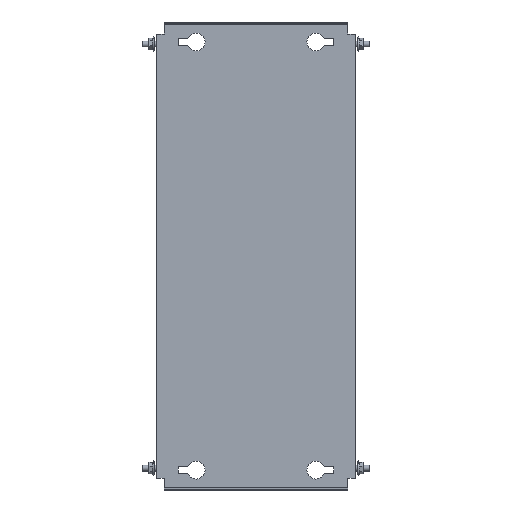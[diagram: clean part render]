
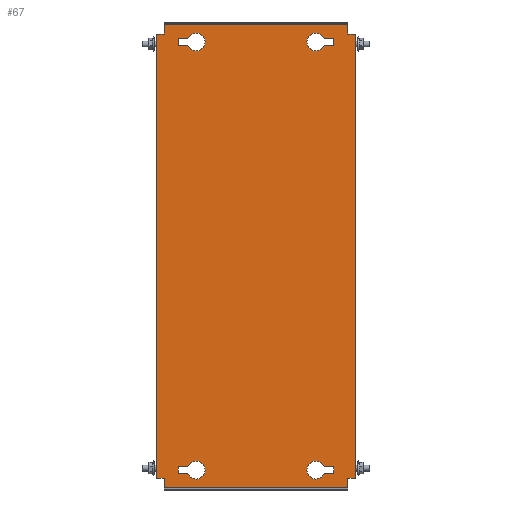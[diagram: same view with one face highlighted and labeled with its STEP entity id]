
A CAD part, top view. The second image highlights one B-rep face of the part: STEP entity #67.
In plain terms, the highlighted planar face has unit normal (0, 0, 1).
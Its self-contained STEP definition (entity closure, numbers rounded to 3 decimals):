
#67 = ADVANCED_FACE('',(#68,#103,#138,#300,#335),#370,.T.);
#68 = FACE_BOUND('',#69,.T.);
#69 = EDGE_LOOP('',(#70,#80,#88,#96));
#70 = ORIENTED_EDGE('',*,*,#71,.T.);
#71 = EDGE_CURVE('',#72,#74,#76,.T.);
#72 = VERTEX_POINT('',#73);
#73 = CARTESIAN_POINT('',(68.393,217.75,2.));
#74 = VERTEX_POINT('',#75);
#75 = CARTESIAN_POINT('',(78.,217.75,2.));
#76 = LINE('',#77,#78);
#77 = CARTESIAN_POINT('',(77.,217.75,2.));
#78 = VECTOR('',#79,1.);
#79 = DIRECTION('',(1.,0.,0.));
#80 = ORIENTED_EDGE('',*,*,#81,.T.);
#81 = EDGE_CURVE('',#74,#82,#84,.T.);
#82 = VERTEX_POINT('',#83);
#83 = CARTESIAN_POINT('',(78.,211.25,2.));
#84 = LINE('',#85,#86);
#85 = CARTESIAN_POINT('',(78.,217.75,2.));
#86 = VECTOR('',#87,1.);
#87 = DIRECTION('',(0.,-1.,0.));
#88 = ORIENTED_EDGE('',*,*,#89,.T.);
#89 = EDGE_CURVE('',#82,#90,#92,.T.);
#90 = VERTEX_POINT('',#91);
#91 = CARTESIAN_POINT('',(68.393,211.25,2.));
#92 = LINE('',#93,#94);
#93 = CARTESIAN_POINT('',(77.,211.25,2.));
#94 = VECTOR('',#95,1.);
#95 = DIRECTION('',(-1.,0.,0.));
#96 = ORIENTED_EDGE('',*,*,#97,.T.);
#97 = EDGE_CURVE('',#90,#72,#98,.T.);
#98 = CIRCLE('',#99,9.);
#99 = AXIS2_PLACEMENT_3D('',#100,#101,#102);
#100 = CARTESIAN_POINT('',(60.,214.5,2.));
#101 = DIRECTION('',(0.,0.,-1.));
#102 = DIRECTION('',(1.,0.,0.));
#103 = FACE_BOUND('',#104,.T.);
#104 = EDGE_LOOP('',(#105,#115,#123,#131));
#105 = ORIENTED_EDGE('',*,*,#106,.T.);
#106 = EDGE_CURVE('',#107,#109,#111,.T.);
#107 = VERTEX_POINT('',#108);
#108 = CARTESIAN_POINT('',(-68.393,-217.75,2.));
#109 = VERTEX_POINT('',#110);
#110 = CARTESIAN_POINT('',(-78.,-217.75,2.));
#111 = LINE('',#112,#113);
#112 = CARTESIAN_POINT('',(-77.,-217.75,2.));
#113 = VECTOR('',#114,1.);
#114 = DIRECTION('',(-1.,0.,0.));
#115 = ORIENTED_EDGE('',*,*,#116,.T.);
#116 = EDGE_CURVE('',#109,#117,#119,.T.);
#117 = VERTEX_POINT('',#118);
#118 = CARTESIAN_POINT('',(-78.,-211.25,2.));
#119 = LINE('',#120,#121);
#120 = CARTESIAN_POINT('',(-78.,-217.75,2.));
#121 = VECTOR('',#122,1.);
#122 = DIRECTION('',(0.,1.,0.));
#123 = ORIENTED_EDGE('',*,*,#124,.T.);
#124 = EDGE_CURVE('',#117,#125,#127,.T.);
#125 = VERTEX_POINT('',#126);
#126 = CARTESIAN_POINT('',(-68.393,-211.25,2.));
#127 = LINE('',#128,#129);
#128 = CARTESIAN_POINT('',(-77.,-211.25,2.));
#129 = VECTOR('',#130,1.);
#130 = DIRECTION('',(1.,-0.,-0.));
#131 = ORIENTED_EDGE('',*,*,#132,.T.);
#132 = EDGE_CURVE('',#125,#107,#133,.T.);
#133 = CIRCLE('',#134,9.);
#134 = AXIS2_PLACEMENT_3D('',#135,#136,#137);
#135 = CARTESIAN_POINT('',(-60.,-214.5,2.));
#136 = DIRECTION('',(0.,0.,-1.));
#137 = DIRECTION('',(-1.,0.,0.));
#138 = FACE_BOUND('',#139,.T.);
#139 = EDGE_LOOP('',(#140,#150,#158,#166,#174,#182,#190,#198,#206,#214,
    #222,#230,#238,#246,#254,#262,#270,#278,#286,#294));
#140 = ORIENTED_EDGE('',*,*,#141,.F.);
#141 = EDGE_CURVE('',#142,#144,#146,.T.);
#142 = VERTEX_POINT('',#143);
#143 = CARTESIAN_POINT('',(-97.4,222.5,2.));
#144 = VERTEX_POINT('',#145);
#145 = CARTESIAN_POINT('',(-92.,222.5,2.));
#146 = LINE('',#147,#148);
#147 = CARTESIAN_POINT('',(-98.,222.5,2.));
#148 = VECTOR('',#149,1.);
#149 = DIRECTION('',(1.,0.,-0.));
#150 = ORIENTED_EDGE('',*,*,#151,.T.);
#151 = EDGE_CURVE('',#142,#152,#154,.T.);
#152 = VERTEX_POINT('',#153);
#153 = CARTESIAN_POINT('',(-100.,222.5,2.));
#154 = LINE('',#155,#156);
#155 = CARTESIAN_POINT('',(-97.4,222.5,2.));
#156 = VECTOR('',#157,1.);
#157 = DIRECTION('',(-1.,0.,0.));
#158 = ORIENTED_EDGE('',*,*,#159,.F.);
#159 = EDGE_CURVE('',#160,#152,#162,.T.);
#160 = VERTEX_POINT('',#161);
#161 = CARTESIAN_POINT('',(-100.,-222.5,2.));
#162 = LINE('',#163,#164);
#163 = CARTESIAN_POINT('',(-100.,-232.5,2.));
#164 = VECTOR('',#165,1.);
#165 = DIRECTION('',(0.,1.,-0.));
#166 = ORIENTED_EDGE('',*,*,#167,.F.);
#167 = EDGE_CURVE('',#168,#160,#170,.T.);
#168 = VERTEX_POINT('',#169);
#169 = CARTESIAN_POINT('',(-97.4,-222.5,2.));
#170 = LINE('',#171,#172);
#171 = CARTESIAN_POINT('',(-92.,-222.5,2.));
#172 = VECTOR('',#173,1.);
#173 = DIRECTION('',(-1.,-0.,-0.));
#174 = ORIENTED_EDGE('',*,*,#175,.T.);
#175 = EDGE_CURVE('',#168,#176,#178,.T.);
#176 = VERTEX_POINT('',#177);
#177 = CARTESIAN_POINT('',(-92.,-222.5,2.));
#178 = LINE('',#179,#180);
#179 = CARTESIAN_POINT('',(-98.,-222.5,2.));
#180 = VECTOR('',#181,1.);
#181 = DIRECTION('',(1.,0.,-0.));
#182 = ORIENTED_EDGE('',*,*,#183,.T.);
#183 = EDGE_CURVE('',#176,#184,#186,.T.);
#184 = VERTEX_POINT('',#185);
#185 = CARTESIAN_POINT('',(-92.,-231.9,2.));
#186 = LINE('',#187,#188);
#187 = CARTESIAN_POINT('',(-92.,232.5,2.));
#188 = VECTOR('',#189,1.);
#189 = DIRECTION('',(0.,-1.,0.));
#190 = ORIENTED_EDGE('',*,*,#191,.T.);
#191 = EDGE_CURVE('',#184,#192,#194,.T.);
#192 = VERTEX_POINT('',#193);
#193 = CARTESIAN_POINT('',(-92.,-232.5,2.));
#194 = LINE('',#195,#196);
#195 = CARTESIAN_POINT('',(-92.,-231.9,2.));
#196 = VECTOR('',#197,1.);
#197 = DIRECTION('',(-0.,-1.,-0.));
#198 = ORIENTED_EDGE('',*,*,#199,.T.);
#199 = EDGE_CURVE('',#192,#200,#202,.T.);
#200 = VERTEX_POINT('',#201);
#201 = CARTESIAN_POINT('',(92.,-232.5,2.));
#202 = LINE('',#203,#204);
#203 = CARTESIAN_POINT('',(92.,-232.5,2.));
#204 = VECTOR('',#205,1.);
#205 = DIRECTION('',(1.,0.,0.));
#206 = ORIENTED_EDGE('',*,*,#207,.F.);
#207 = EDGE_CURVE('',#208,#200,#210,.T.);
#208 = VERTEX_POINT('',#209);
#209 = CARTESIAN_POINT('',(92.,-231.9,2.));
#210 = LINE('',#211,#212);
#211 = CARTESIAN_POINT('',(92.,-232.5,2.));
#212 = VECTOR('',#213,1.);
#213 = DIRECTION('',(0.,-1.,0.));
#214 = ORIENTED_EDGE('',*,*,#215,.T.);
#215 = EDGE_CURVE('',#208,#216,#218,.T.);
#216 = VERTEX_POINT('',#217);
#217 = CARTESIAN_POINT('',(92.,-222.5,2.));
#218 = LINE('',#219,#220);
#219 = CARTESIAN_POINT('',(92.,232.5,2.));
#220 = VECTOR('',#221,1.);
#221 = DIRECTION('',(0.,1.,-0.));
#222 = ORIENTED_EDGE('',*,*,#223,.F.);
#223 = EDGE_CURVE('',#224,#216,#226,.T.);
#224 = VERTEX_POINT('',#225);
#225 = CARTESIAN_POINT('',(97.4,-222.5,2.));
#226 = LINE('',#227,#228);
#227 = CARTESIAN_POINT('',(98.,-222.5,2.));
#228 = VECTOR('',#229,1.);
#229 = DIRECTION('',(-1.,0.,-0.));
#230 = ORIENTED_EDGE('',*,*,#231,.T.);
#231 = EDGE_CURVE('',#224,#232,#234,.T.);
#232 = VERTEX_POINT('',#233);
#233 = CARTESIAN_POINT('',(100.,-222.5,2.));
#234 = LINE('',#235,#236);
#235 = CARTESIAN_POINT('',(97.4,-222.5,2.));
#236 = VECTOR('',#237,1.);
#237 = DIRECTION('',(1.,-0.,0.));
#238 = ORIENTED_EDGE('',*,*,#239,.F.);
#239 = EDGE_CURVE('',#240,#232,#242,.T.);
#240 = VERTEX_POINT('',#241);
#241 = CARTESIAN_POINT('',(100.,222.5,2.));
#242 = LINE('',#243,#244);
#243 = CARTESIAN_POINT('',(100.,-232.5,2.));
#244 = VECTOR('',#245,1.);
#245 = DIRECTION('',(0.,-1.,-0.));
#246 = ORIENTED_EDGE('',*,*,#247,.F.);
#247 = EDGE_CURVE('',#248,#240,#250,.T.);
#248 = VERTEX_POINT('',#249);
#249 = CARTESIAN_POINT('',(97.4,222.5,2.));
#250 = LINE('',#251,#252);
#251 = CARTESIAN_POINT('',(-92.,222.5,2.));
#252 = VECTOR('',#253,1.);
#253 = DIRECTION('',(1.,-0.,0.));
#254 = ORIENTED_EDGE('',*,*,#255,.T.);
#255 = EDGE_CURVE('',#248,#256,#258,.T.);
#256 = VERTEX_POINT('',#257);
#257 = CARTESIAN_POINT('',(92.,222.5,2.));
#258 = LINE('',#259,#260);
#259 = CARTESIAN_POINT('',(98.,222.5,2.));
#260 = VECTOR('',#261,1.);
#261 = DIRECTION('',(-1.,0.,-0.));
#262 = ORIENTED_EDGE('',*,*,#263,.T.);
#263 = EDGE_CURVE('',#256,#264,#266,.T.);
#264 = VERTEX_POINT('',#265);
#265 = CARTESIAN_POINT('',(92.,231.9,2.));
#266 = LINE('',#267,#268);
#267 = CARTESIAN_POINT('',(92.,232.5,2.));
#268 = VECTOR('',#269,1.);
#269 = DIRECTION('',(0.,1.,-0.));
#270 = ORIENTED_EDGE('',*,*,#271,.T.);
#271 = EDGE_CURVE('',#264,#272,#274,.T.);
#272 = VERTEX_POINT('',#273);
#273 = CARTESIAN_POINT('',(92.,232.5,2.));
#274 = LINE('',#275,#276);
#275 = CARTESIAN_POINT('',(92.,231.9,2.));
#276 = VECTOR('',#277,1.);
#277 = DIRECTION('',(-0.,1.,-0.));
#278 = ORIENTED_EDGE('',*,*,#279,.T.);
#279 = EDGE_CURVE('',#272,#280,#282,.T.);
#280 = VERTEX_POINT('',#281);
#281 = CARTESIAN_POINT('',(-92.,232.5,2.));
#282 = LINE('',#283,#284);
#283 = CARTESIAN_POINT('',(-92.,232.5,2.));
#284 = VECTOR('',#285,1.);
#285 = DIRECTION('',(-1.,0.,0.));
#286 = ORIENTED_EDGE('',*,*,#287,.F.);
#287 = EDGE_CURVE('',#288,#280,#290,.T.);
#288 = VERTEX_POINT('',#289);
#289 = CARTESIAN_POINT('',(-92.,231.9,2.));
#290 = LINE('',#291,#292);
#291 = CARTESIAN_POINT('',(-92.,-232.5,2.));
#292 = VECTOR('',#293,1.);
#293 = DIRECTION('',(0.,1.,-0.));
#294 = ORIENTED_EDGE('',*,*,#295,.T.);
#295 = EDGE_CURVE('',#288,#144,#296,.T.);
#296 = LINE('',#297,#298);
#297 = CARTESIAN_POINT('',(-92.,232.5,2.));
#298 = VECTOR('',#299,1.);
#299 = DIRECTION('',(0.,-1.,0.));
#300 = FACE_BOUND('',#301,.T.);
#301 = EDGE_LOOP('',(#302,#312,#320,#328));
#302 = ORIENTED_EDGE('',*,*,#303,.F.);
#303 = EDGE_CURVE('',#304,#306,#308,.T.);
#304 = VERTEX_POINT('',#305);
#305 = CARTESIAN_POINT('',(78.,-211.25,2.));
#306 = VERTEX_POINT('',#307);
#307 = CARTESIAN_POINT('',(68.393,-211.25,2.));
#308 = LINE('',#309,#310);
#309 = CARTESIAN_POINT('',(68.393,-211.25,2.));
#310 = VECTOR('',#311,1.);
#311 = DIRECTION('',(-1.,0.,0.));
#312 = ORIENTED_EDGE('',*,*,#313,.F.);
#313 = EDGE_CURVE('',#314,#304,#316,.T.);
#314 = VERTEX_POINT('',#315);
#315 = CARTESIAN_POINT('',(78.,-217.75,2.));
#316 = LINE('',#317,#318);
#317 = CARTESIAN_POINT('',(78.,-211.25,2.));
#318 = VECTOR('',#319,1.);
#319 = DIRECTION('',(0.,1.,0.));
#320 = ORIENTED_EDGE('',*,*,#321,.F.);
#321 = EDGE_CURVE('',#322,#314,#324,.T.);
#322 = VERTEX_POINT('',#323);
#323 = CARTESIAN_POINT('',(68.393,-217.75,2.));
#324 = LINE('',#325,#326);
#325 = CARTESIAN_POINT('',(77.,-217.75,2.));
#326 = VECTOR('',#327,1.);
#327 = DIRECTION('',(1.,0.,0.));
#328 = ORIENTED_EDGE('',*,*,#329,.F.);
#329 = EDGE_CURVE('',#306,#322,#330,.T.);
#330 = CIRCLE('',#331,9.);
#331 = AXIS2_PLACEMENT_3D('',#332,#333,#334);
#332 = CARTESIAN_POINT('',(60.,-214.5,2.));
#333 = DIRECTION('',(0.,-0.,1.));
#334 = DIRECTION('',(1.,0.,0.));
#335 = FACE_BOUND('',#336,.T.);
#336 = EDGE_LOOP('',(#337,#347,#355,#363));
#337 = ORIENTED_EDGE('',*,*,#338,.F.);
#338 = EDGE_CURVE('',#339,#341,#343,.T.);
#339 = VERTEX_POINT('',#340);
#340 = CARTESIAN_POINT('',(-78.,211.25,2.));
#341 = VERTEX_POINT('',#342);
#342 = CARTESIAN_POINT('',(-68.393,211.25,2.));
#343 = LINE('',#344,#345);
#344 = CARTESIAN_POINT('',(-68.393,211.25,2.));
#345 = VECTOR('',#346,1.);
#346 = DIRECTION('',(1.,0.,0.));
#347 = ORIENTED_EDGE('',*,*,#348,.F.);
#348 = EDGE_CURVE('',#349,#339,#351,.T.);
#349 = VERTEX_POINT('',#350);
#350 = CARTESIAN_POINT('',(-78.,217.75,2.));
#351 = LINE('',#352,#353);
#352 = CARTESIAN_POINT('',(-78.,211.25,2.));
#353 = VECTOR('',#354,1.);
#354 = DIRECTION('',(0.,-1.,0.));
#355 = ORIENTED_EDGE('',*,*,#356,.F.);
#356 = EDGE_CURVE('',#357,#349,#359,.T.);
#357 = VERTEX_POINT('',#358);
#358 = CARTESIAN_POINT('',(-68.393,217.75,2.));
#359 = LINE('',#360,#361);
#360 = CARTESIAN_POINT('',(-77.,217.75,2.));
#361 = VECTOR('',#362,1.);
#362 = DIRECTION('',(-1.,0.,0.));
#363 = ORIENTED_EDGE('',*,*,#364,.F.);
#364 = EDGE_CURVE('',#341,#357,#365,.T.);
#365 = CIRCLE('',#366,9.);
#366 = AXIS2_PLACEMENT_3D('',#367,#368,#369);
#367 = CARTESIAN_POINT('',(-60.,214.5,2.));
#368 = DIRECTION('',(0.,-0.,1.));
#369 = DIRECTION('',(-1.,0.,0.));
#370 = PLANE('',#371);
#371 = AXIS2_PLACEMENT_3D('',#372,#373,#374);
#372 = CARTESIAN_POINT('',(-92.,-232.5,2.));
#373 = DIRECTION('',(-0.,0.,1.));
#374 = DIRECTION('',(1.,0.,0.));
